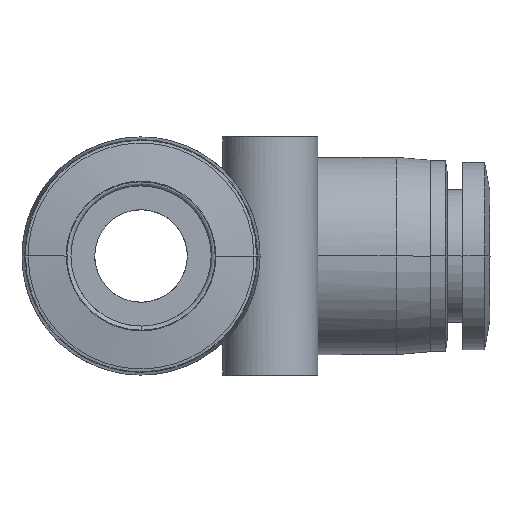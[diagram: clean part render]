
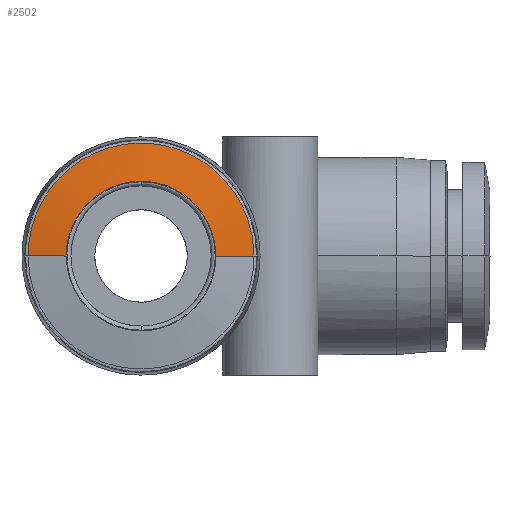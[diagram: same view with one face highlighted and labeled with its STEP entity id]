
A CAD part, front view. The second image highlights one B-rep face of the part: STEP entity #2502.
In plain terms, the highlighted conical face has half-angle 81.87 degrees and reference radius 6.9 mm.
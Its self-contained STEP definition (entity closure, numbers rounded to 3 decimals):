
#72 = AXIS2_PLACEMENT_3D ( 'NONE', #8745, #2349, #4551 ) ;
#100 = CARTESIAN_POINT ( 'NONE',  ( 2.173, -41.45, 8.084 ) ) ;
#139 = VERTEX_POINT ( 'NONE', #8231 ) ;
#193 = VERTEX_POINT ( 'NONE', #368 ) ;
#368 = CARTESIAN_POINT ( 'NONE',  ( -8.3, -41.45, 0. ) ) ;
#509 = CARTESIAN_POINT ( 'NONE',  ( -4.399, -41.85, 3.379 ) ) ;
#830 = CARTESIAN_POINT ( 'NONE',  ( -2.173, -41.45, 8.084 ) ) ;
#939 = ORIENTED_EDGE ( 'NONE', *, *, #3945, .F. ) ;
#1188 = ORIENTED_EDGE ( 'NONE', *, *, #3632, .T. ) ;
#1241 = LINE ( 'NONE', #7536, #3681 ) ;
#1287 = CARTESIAN_POINT ( 'NONE',  ( 3.379, -41.85, 4.399 ) ) ;
#2016 = CARTESIAN_POINT ( 'NONE',  ( -5.5, -41.85, 0.723 ) ) ;
#2042 = B_SPLINE_CURVE_WITH_KNOTS ( 'NONE', 3,
 ( #2379, #7085, #2244, #3659, #6568, #8511, #5085, #100, #8550, #7782, #830, #2205, #2287, #7210, #4998, #5130, #6394, #5039 ),
 .UNSPECIFIED., .F., .F.,
 ( 4, 2, 2, 2, 2, 2, 2, 2, 4 ),
 ( 0.5, 0.563, 0.625, 0.688, 0.75, 0.813, 0.875, 0.938, 1. ),
 .UNSPECIFIED. ) ;
#2194 = B_SPLINE_CURVE_WITH_KNOTS ( 'NONE', 3,
 ( #7585, #4122, #4681, #2566, #5555, #1287, #8920, #6073, #5374, #4818, #6897, #8237, #2659, #509, #6210, #2613, #2016, #3302 ),
 .UNSPECIFIED., .F., .F.,
 ( 4, 2, 2, 2, 2, 2, 2, 2, 4 ),
 ( 0.5, 0.563, 0.625, 0.688, 0.75, 0.813, 0.875, 0.938, 1. ),
 .UNSPECIFIED. ) ;
#2205 = CARTESIAN_POINT ( 'NONE',  ( -4.18, -41.45, 7.252 ) ) ;
#2244 = CARTESIAN_POINT ( 'NONE',  ( 8.084, -41.45, 2.173 ) ) ;
#2248 = VERTEX_POINT ( 'NONE', #3729 ) ;
#2287 = CARTESIAN_POINT ( 'NONE',  ( -5.101, -41.45, 6.637 ) ) ;
#2349 = DIRECTION ( 'NONE',  ( 0., 1., 0. ) ) ;
#2379 = CARTESIAN_POINT ( 'NONE',  ( 8.3, -41.45, 0. ) ) ;
#2502 = ADVANCED_FACE ( 'NONE', ( #3264 ), #4008, .T. ) ;
#2566 = CARTESIAN_POINT ( 'NONE',  ( 4.805, -41.85, 2.771 ) ) ;
#2613 = CARTESIAN_POINT ( 'NONE',  ( -5.358, -41.85, 1.438 ) ) ;
#2659 = CARTESIAN_POINT ( 'NONE',  ( -3.379, -41.85, 4.399 ) ) ;
#2947 = VECTOR ( 'NONE', #6664, 1000. ) ;
#3125 = ORIENTED_EDGE ( 'NONE', *, *, #6834, .T. ) ;
#3264 = FACE_OUTER_BOUND ( 'NONE', #6652, .T. ) ;
#3302 = CARTESIAN_POINT ( 'NONE',  ( -5.5, -41.85, 0. ) ) ;
#3618 = EDGE_CURVE ( 'NONE', #6397, #193, #1241, .T. ) ;
#3632 = EDGE_CURVE ( 'NONE', #2248, #139, #7403, .T. ) ;
#3659 = CARTESIAN_POINT ( 'NONE',  ( 7.252, -41.45, 4.18 ) ) ;
#3681 = VECTOR ( 'NONE', #6850, 1000. ) ;
#3729 = CARTESIAN_POINT ( 'NONE',  ( 5.5, -41.85, 0. ) ) ;
#3945 = EDGE_CURVE ( 'NONE', #2248, #6397, #2194, .T. ) ;
#4008 = CONICAL_SURFACE ( 'NONE', #72, 6.9, 1.429 ) ;
#4122 = CARTESIAN_POINT ( 'NONE',  ( 5.5, -41.85, 0.722 ) ) ;
#4551 = DIRECTION ( 'NONE',  ( -1., 0., 0. ) ) ;
#4681 = CARTESIAN_POINT ( 'NONE',  ( 5.357, -41.85, 1.438 ) ) ;
#4818 = CARTESIAN_POINT ( 'NONE',  ( -0.722, -41.85, 5.5 ) ) ;
#4998 = CARTESIAN_POINT ( 'NONE',  ( -7.252, -41.45, 4.18 ) ) ;
#5039 = CARTESIAN_POINT ( 'NONE',  ( -8.3, -41.45, 0. ) ) ;
#5085 = CARTESIAN_POINT ( 'NONE',  ( 4.18, -41.45, 7.252 ) ) ;
#5130 = CARTESIAN_POINT ( 'NONE',  ( -8.084, -41.45, 2.173 ) ) ;
#5374 = CARTESIAN_POINT ( 'NONE',  ( 0.722, -41.85, 5.5 ) ) ;
#5555 = CARTESIAN_POINT ( 'NONE',  ( 4.399, -41.85, 3.379 ) ) ;
#6073 = CARTESIAN_POINT ( 'NONE',  ( 1.438, -41.85, 5.358 ) ) ;
#6210 = CARTESIAN_POINT ( 'NONE',  ( -4.805, -41.85, 2.771 ) ) ;
#6394 = CARTESIAN_POINT ( 'NONE',  ( -8.3, -41.45, 1.086 ) ) ;
#6397 = VERTEX_POINT ( 'NONE', #6690 ) ;
#6488 = ORIENTED_EDGE ( 'NONE', *, *, #3618, .F. ) ;
#6568 = CARTESIAN_POINT ( 'NONE',  ( 6.637, -41.45, 5.101 ) ) ;
#6652 = EDGE_LOOP ( 'NONE', ( #939, #1188, #3125, #6488 ) ) ;
#6664 = DIRECTION ( 'NONE',  ( 0.99, 0.141, 0. ) ) ;
#6690 = CARTESIAN_POINT ( 'NONE',  ( -5.5, -41.85, 0. ) ) ;
#6834 = EDGE_CURVE ( 'NONE', #139, #193, #2042, .T. ) ;
#6850 = DIRECTION ( 'NONE',  ( -0.99, 0.141, 0. ) ) ;
#6897 = CARTESIAN_POINT ( 'NONE',  ( -1.438, -41.85, 5.357 ) ) ;
#7085 = CARTESIAN_POINT ( 'NONE',  ( 8.3, -41.45, 1.086 ) ) ;
#7210 = CARTESIAN_POINT ( 'NONE',  ( -6.637, -41.45, 5.101 ) ) ;
#7403 = LINE ( 'NONE', #8053, #2947 ) ;
#7536 = CARTESIAN_POINT ( 'NONE',  ( -6.9, -41.65, 0. ) ) ;
#7585 = CARTESIAN_POINT ( 'NONE',  ( 5.5, -41.85, 0. ) ) ;
#7782 = CARTESIAN_POINT ( 'NONE',  ( -1.086, -41.45, 8.3 ) ) ;
#8053 = CARTESIAN_POINT ( 'NONE',  ( 6.9, -41.65, 0. ) ) ;
#8231 = CARTESIAN_POINT ( 'NONE',  ( 8.3, -41.45, 0. ) ) ;
#8237 = CARTESIAN_POINT ( 'NONE',  ( -2.771, -41.85, 4.805 ) ) ;
#8511 = CARTESIAN_POINT ( 'NONE',  ( 5.101, -41.45, 6.637 ) ) ;
#8550 = CARTESIAN_POINT ( 'NONE',  ( 1.086, -41.45, 8.3 ) ) ;
#8745 = CARTESIAN_POINT ( 'NONE',  ( 0., -41.65, 0. ) ) ;
#8920 = CARTESIAN_POINT ( 'NONE',  ( 2.771, -41.85, 4.805 ) ) ;
